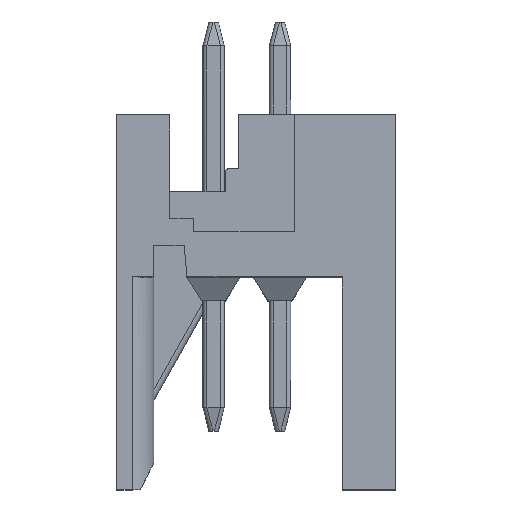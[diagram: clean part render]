
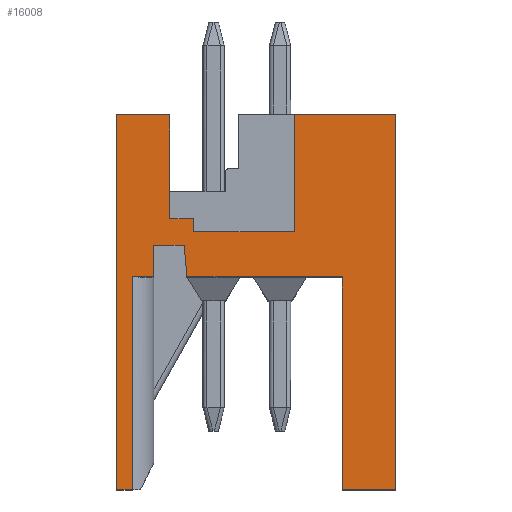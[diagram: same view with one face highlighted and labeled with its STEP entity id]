
A CAD part, top view. The second image highlights one B-rep face of the part: STEP entity #16008.
In plain terms, the highlighted planar face has unit normal (0, 0, 1).
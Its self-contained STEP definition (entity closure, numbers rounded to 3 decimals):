
#1595=DIRECTION('',(1.,0.,0.));
#1596=VECTOR('',#1595,3.8);
#1597=CARTESIAN_POINT('',(1.8,17.1,0.));
#1598=LINE('',#1597,#1596);
#1937=DIRECTION('',(-1.,0.,0.));
#1938=VECTOR('',#1937,0.6);
#1939=CARTESIAN_POINT('',(-4.3,3.,0.));
#1940=LINE('',#1939,#1938);
#2305=DIRECTION('',(1.,0.,0.));
#2306=VECTOR('',#2305,5.85);
#2307=CARTESIAN_POINT('',(-2.25,11.,0.));
#2308=LINE('',#2307,#2306);
#2309=DIRECTION('',(0.087,-0.996,0.));
#2310=VECTOR('',#2309,1.205);
#2311=CARTESIAN_POINT('',(-2.355,12.2,0.));
#2312=LINE('',#2311,#2310);
#2313=DIRECTION('',(1.,0.,0.));
#2314=VECTOR('',#2313,1.145);
#2315=CARTESIAN_POINT('',(-3.5,12.2,0.));
#2316=LINE('',#2315,#2314);
#2317=DIRECTION('',(0.,1.,0.));
#2318=VECTOR('',#2317,1.2);
#2319=CARTESIAN_POINT('',(-3.5,11.,0.));
#2320=LINE('',#2319,#2318);
#2321=DIRECTION('',(1.,0.,0.));
#2322=VECTOR('',#2321,0.8);
#2323=CARTESIAN_POINT('',(-4.3,11.,0.));
#2324=LINE('',#2323,#2322);
#2325=DIRECTION('',(0.,1.,0.));
#2326=VECTOR('',#2325,8.);
#2327=CARTESIAN_POINT('',(-4.3,3.,0.));
#2328=LINE('',#2327,#2326);
#2329=DIRECTION('',(0.,-1.,0.));
#2330=VECTOR('',#2329,14.1);
#2331=CARTESIAN_POINT('',(-4.9,17.1,0.));
#2332=LINE('',#2331,#2330);
#4344=DIRECTION('',(0.,1.,0.));
#4345=VECTOR('',#4344,4.4);
#4346=CARTESIAN_POINT('',(1.8,12.7,0.));
#4347=LINE('',#4346,#4345);
#4352=DIRECTION('',(1.,0.,0.));
#4353=VECTOR('',#4352,3.8);
#4354=CARTESIAN_POINT('',(-2.,12.7,0.));
#4355=LINE('',#4354,#4353);
#4360=DIRECTION('',(0.,-1.,0.));
#4361=VECTOR('',#4360,0.5);
#4362=CARTESIAN_POINT('',(-2.,13.2,0.));
#4363=LINE('',#4362,#4361);
#4368=DIRECTION('',(1.,0.,0.));
#4369=VECTOR('',#4368,0.9);
#4370=CARTESIAN_POINT('',(-2.9,13.2,0.));
#4371=LINE('',#4370,#4369);
#4376=DIRECTION('',(0.,-1.,0.));
#4377=VECTOR('',#4376,3.9);
#4378=CARTESIAN_POINT('',(-2.9,17.1,0.));
#4379=LINE('',#4378,#4377);
#4384=DIRECTION('',(1.,0.,0.));
#4385=VECTOR('',#4384,2.);
#4386=CARTESIAN_POINT('',(-4.9,17.1,0.));
#4387=LINE('',#4386,#4385);
#9404=DIRECTION('',(0.,-1.,0.));
#9405=VECTOR('',#9404,14.1);
#9406=CARTESIAN_POINT('',(5.6,17.1,0.));
#9407=LINE('',#9406,#9405);
#9512=DIRECTION('',(-1.,0.,0.));
#9513=VECTOR('',#9512,2.);
#9514=CARTESIAN_POINT('',(5.6,3.,0.));
#9515=LINE('',#9514,#9513);
#9537=DIRECTION('',(0.,1.,0.));
#9538=VECTOR('',#9537,8.);
#9539=CARTESIAN_POINT('',(3.6,3.,0.));
#9540=LINE('',#9539,#9538);
#10975=CARTESIAN_POINT('',(-4.9,17.1,0.));
#10976=VERTEX_POINT('',#10975);
#10977=CARTESIAN_POINT('',(-4.9,3.,0.));
#10978=VERTEX_POINT('',#10977);
#11034=CARTESIAN_POINT('',(-2.25,11.,0.));
#11036=VERTEX_POINT('',#11034);
#11037=CARTESIAN_POINT('',(3.6,11.,0.));
#11038=VERTEX_POINT('',#11037);
#11136=CARTESIAN_POINT('',(-2.355,12.2,0.));
#11138=VERTEX_POINT('',#11136);
#11140=CARTESIAN_POINT('',(-3.5,12.2,0.));
#11142=VERTEX_POINT('',#11140);
#11144=CARTESIAN_POINT('',(-3.5,11.,0.));
#11146=VERTEX_POINT('',#11144);
#11150=CARTESIAN_POINT('',(-4.3,11.,0.));
#11152=VERTEX_POINT('',#11150);
#11153=CARTESIAN_POINT('',(-4.3,3.,0.));
#11154=VERTEX_POINT('',#11153);
#11157=CARTESIAN_POINT('',(-2.9,17.1,0.));
#11158=VERTEX_POINT('',#11157);
#11159=CARTESIAN_POINT('',(-2.9,13.2,0.));
#11160=VERTEX_POINT('',#11159);
#11161=CARTESIAN_POINT('',(-2.,13.2,0.));
#11162=VERTEX_POINT('',#11161);
#11163=CARTESIAN_POINT('',(-2.,12.7,0.));
#11164=VERTEX_POINT('',#11163);
#11165=CARTESIAN_POINT('',(1.8,12.7,0.));
#11166=VERTEX_POINT('',#11165);
#11167=CARTESIAN_POINT('',(1.8,17.1,0.));
#11168=VERTEX_POINT('',#11167);
#11169=CARTESIAN_POINT('',(5.6,17.1,0.));
#11170=VERTEX_POINT('',#11169);
#11171=CARTESIAN_POINT('',(5.6,3.,0.));
#11172=VERTEX_POINT('',#11171);
#11173=CARTESIAN_POINT('',(3.6,3.,0.));
#11174=VERTEX_POINT('',#11173);
#15969=CARTESIAN_POINT('',(-7.669,0.,0.));
#15970=DIRECTION('',(0.,0.,-1.));
#15971=DIRECTION('',(1.,0.,0.));
#15972=AXIS2_PLACEMENT_3D('',#15969,#15970,#15971);
#15973=PLANE('',#15972);
#15974=ORIENTED_EDGE('',*,*,#13538,.F.);
#15976=ORIENTED_EDGE('',*,*,#15975,.F.);
#15978=ORIENTED_EDGE('',*,*,#15977,.F.);
#15980=ORIENTED_EDGE('',*,*,#15979,.F.);
#15982=ORIENTED_EDGE('',*,*,#15981,.F.);
#15983=ORIENTED_EDGE('',*,*,#15961,.F.);
#15984=ORIENTED_EDGE('',*,*,#15664,.T.);
#15986=ORIENTED_EDGE('',*,*,#15985,.F.);
#15988=ORIENTED_EDGE('',*,*,#15987,.T.);
#15990=ORIENTED_EDGE('',*,*,#15989,.T.);
#15992=ORIENTED_EDGE('',*,*,#15991,.T.);
#15994=ORIENTED_EDGE('',*,*,#15993,.T.);
#15996=ORIENTED_EDGE('',*,*,#15995,.T.);
#15998=ORIENTED_EDGE('',*,*,#15997,.T.);
#15999=ORIENTED_EDGE('',*,*,#15074,.T.);
#16001=ORIENTED_EDGE('',*,*,#16000,.T.);
#16003=ORIENTED_EDGE('',*,*,#16002,.T.);
#16005=ORIENTED_EDGE('',*,*,#16004,.T.);
#16006=EDGE_LOOP('',(#15974,#15976,#15978,#15980,#15982,#15983,#15984,#15986,
#15988,#15990,#15992,#15994,#15996,#15998,#15999,#16001,#16003,#16005));
#16007=FACE_OUTER_BOUND('',#16006,.F.);
#16008=ADVANCED_FACE('',(#16007),#15973,.F.);
#13538=EDGE_CURVE('',#11036,#11038,#2308,.T.);
#15074=EDGE_CURVE('',#11168,#11170,#1598,.T.);
#15664=EDGE_CURVE('',#11154,#10978,#1940,.T.);
#15961=EDGE_CURVE('',#11154,#11152,#2328,.T.);
#15975=EDGE_CURVE('',#11138,#11036,#2312,.T.);
#15977=EDGE_CURVE('',#11142,#11138,#2316,.T.);
#15979=EDGE_CURVE('',#11146,#11142,#2320,.T.);
#15981=EDGE_CURVE('',#11152,#11146,#2324,.T.);
#15985=EDGE_CURVE('',#10976,#10978,#2332,.T.);
#15987=EDGE_CURVE('',#10976,#11158,#4387,.T.);
#15989=EDGE_CURVE('',#11158,#11160,#4379,.T.);
#15991=EDGE_CURVE('',#11160,#11162,#4371,.T.);
#15993=EDGE_CURVE('',#11162,#11164,#4363,.T.);
#15995=EDGE_CURVE('',#11164,#11166,#4355,.T.);
#15997=EDGE_CURVE('',#11166,#11168,#4347,.T.);
#16000=EDGE_CURVE('',#11170,#11172,#9407,.T.);
#16002=EDGE_CURVE('',#11172,#11174,#9515,.T.);
#16004=EDGE_CURVE('',#11174,#11038,#9540,.T.);
